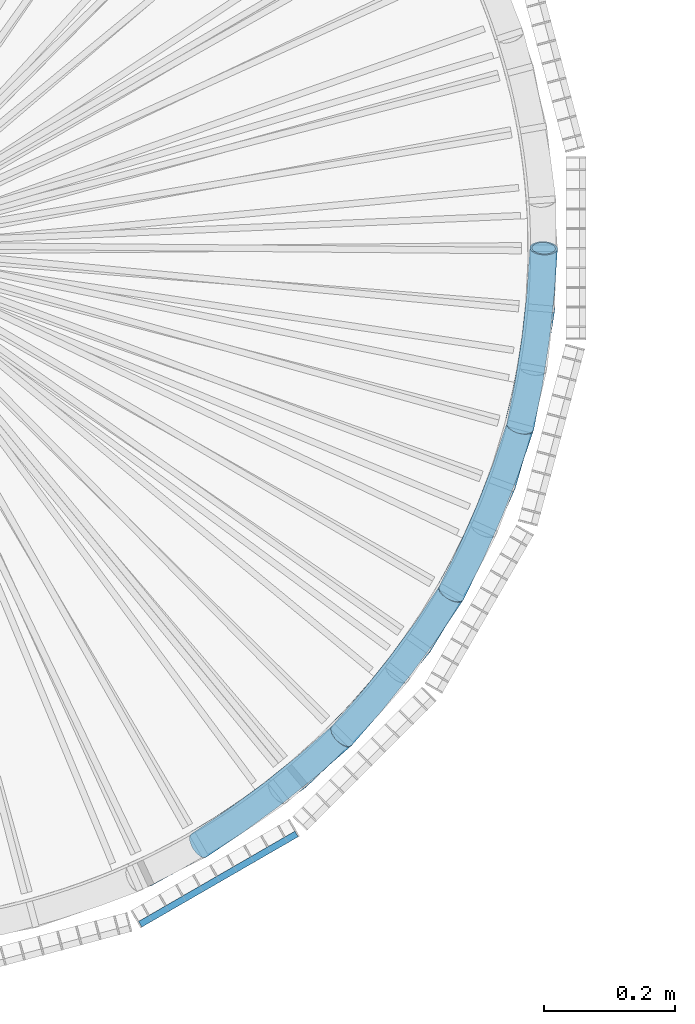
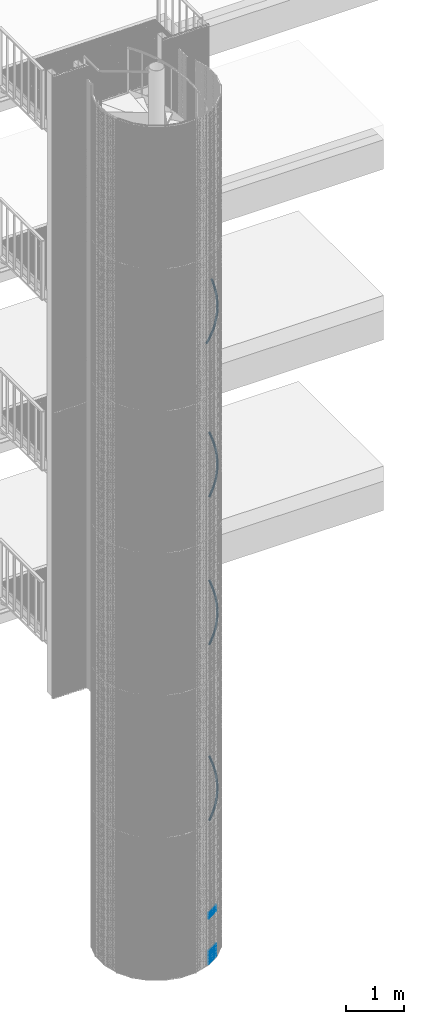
# One storey, part 270 of 1183: 16 members, 15 beams, 17 elements without a shape of their own.
"""IFC2X3 building model written with IfcOpenShell, lengths in millimetres."""

from ifc_helpers import new_model, entity, si_unit, frame, origin_with_axes, origin_2d_with_axis, place, context, subcontext, project, spatial, rectangle, extrude, material, type_object, element, aggregate, save


model = new_model("IFC2X3")

# Units and contexts
model_context = context("Model", 3, precision=1e-05, world=origin_with_axes())
body_context = subcontext(model_context, "Body", "Model", "MODEL_VIEW")
ifc_project = project(units=[si_unit("LENGTHUNIT", "METRE", prefix="MILLI"), si_unit("AREAUNIT", "SQUARE_METRE"), si_unit("VOLUMEUNIT", "CUBIC_METRE"), si_unit("MASSUNIT", "GRAM", prefix="KILO"), si_unit("TIMEUNIT", "SECOND"), si_unit("PLANEANGLEUNIT", "RADIAN"), si_unit("SOLIDANGLEUNIT", "STERADIAN"), si_unit("THERMODYNAMICTEMPERATUREUNIT", "DEGREE_CELSIUS"), si_unit("LUMINOUSINTENSITYUNIT", "LUMEN")], contexts=[model_context])

# Site, building, storey
site_placement = place(None, origin_with_axes())
site = spatial("IfcSite", under=ifc_project, at=site_placement, Name="Undefined", CompositionType="ELEMENT")
building_placement = place(site_placement, origin_with_axes())
building = spatial("IfcBuilding", under=site, at=building_placement, Name="Undefined", CompositionType="ELEMENT")
storey_placement = place(building_placement, origin_with_axes())
storey = spatial("IfcBuildingStorey", under=building, at=storey_placement, Name="Undefined", CompositionType="ELEMENT", Elevation=0.0)

# Assembly, beams
assembly_1_placement = place(storey_placement, origin_with_axes())
assembly_1 = element("IfcElementAssembly", 1, at=assembly_1_placement, inside=storey, Name="BORDURE", AssemblyPlace="NOTDEFINED", PredefinedType="NOTDEFINED")
ifc_material = material(Name="STEEL/S235JR")
beam_type = type_object("IfcBeamType", Name="PL2*10", PredefinedType="NOTDEFINED")
beam_1_placement = place(assembly_1_placement, frame((437.231955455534, -1033.29996828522, 299.999999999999), z_axis=(0.499999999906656, -0.866025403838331, 0.0), x_axis=(0.866025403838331, 0.499999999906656, 0.0)))
beam_1 = element("IfcBeam", 2, at=beam_1_placement, type_object=beam_type, material=ifc_material, Name="ENTRETOISE", context=body_context, shape_type="SweptSolid", body=[
    extrude(rectangle(XDim=2.0, YDim=10.0, at=origin_2d_with_axis()), frame((275.999999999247, 9.09494701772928e-13, 1.53210777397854e-14), z_axis=(-1.0, 0.0, 0.0), x_axis=(0.0, -1.0, 0.0)), (0.0, 0.0, 1.0), 276.0),
])
beam_2_placement = place(assembly_1_placement, frame((437.231955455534, -1033.29996828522, 269.999999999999), z_axis=(0.499999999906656, -0.866025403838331, 0.0), x_axis=(0.866025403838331, 0.499999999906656, 0.0)))
beam_2 = element("IfcBeam", 3, at=beam_2_placement, type_object=beam_type, material=ifc_material, Name="ENTRETOISE", context=body_context, shape_type="SweptSolid", body=[
    extrude(rectangle(XDim=2.0, YDim=10.0, at=origin_2d_with_axis()), frame((275.999999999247, 9.09494701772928e-13, 1.53210777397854e-14), z_axis=(-1.0, 0.0, 0.0), x_axis=(0.0, -1.0, 0.0)), (0.0, 0.0, 1.0), 276.0),
])
beam_3_placement = place(assembly_1_placement, frame((437.231955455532, -1033.29996828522, 989.999999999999), z_axis=(0.499999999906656, -0.866025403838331, 0.0), x_axis=(0.866025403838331, 0.499999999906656, 0.0)))
beam_3 = element("IfcBeam", 4, at=beam_3_placement, type_object=beam_type, material=ifc_material, Name="ENTRETOISE", context=body_context, shape_type="SweptSolid", body=[
    extrude(rectangle(XDim=2.0, YDim=10.0, at=origin_2d_with_axis()), frame((275.999999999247, 9.09494701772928e-13, 1.53210777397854e-14), z_axis=(-1.0, 0.0, 0.0), x_axis=(0.0, -1.0, 0.0)), (0.0, 0.0, 1.0), 276.0),
])
beam_4_placement = place(assembly_1_placement, frame((437.231955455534, -1033.29996828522, 239.999999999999), z_axis=(0.499999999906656, -0.866025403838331, 0.0), x_axis=(0.866025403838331, 0.499999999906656, 0.0)))
beam_4 = element("IfcBeam", 5, at=beam_4_placement, type_object=beam_type, material=ifc_material, Name="ENTRETOISE", context=body_context, shape_type="SweptSolid", body=[
    extrude(rectangle(XDim=2.0, YDim=10.0, at=origin_2d_with_axis()), frame((275.999999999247, 9.09494701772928e-13, 1.53210777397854e-14), z_axis=(-1.0, 0.0, 0.0), x_axis=(0.0, -1.0, 0.0)), (0.0, 0.0, 1.0), 276.0),
])
beam_5_placement = place(assembly_1_placement, frame((437.231955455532, -1033.29996828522, 1020.0), z_axis=(0.499999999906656, -0.866025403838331, 0.0), x_axis=(0.866025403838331, 0.499999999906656, 0.0)))
beam_5 = element("IfcBeam", 6, at=beam_5_placement, type_object=beam_type, material=ifc_material, Name="ENTRETOISE", context=body_context, shape_type="SweptSolid", body=[
    extrude(rectangle(XDim=2.0, YDim=10.0, at=origin_2d_with_axis()), frame((275.999999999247, 9.09494701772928e-13, 1.53210777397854e-14), z_axis=(-1.0, 0.0, 0.0), x_axis=(0.0, -1.0, 0.0)), (0.0, 0.0, 1.0), 276.0),
])
beam_6_placement = place(assembly_1_placement, frame((437.231955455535, -1033.29996828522, 209.999999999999), z_axis=(0.499999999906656, -0.866025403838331, 0.0), x_axis=(0.866025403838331, 0.499999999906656, 0.0)))
beam_6 = element("IfcBeam", 7, at=beam_6_placement, type_object=beam_type, material=ifc_material, Name="ENTRETOISE", context=body_context, shape_type="SweptSolid", body=[
    extrude(rectangle(XDim=2.0, YDim=10.0, at=origin_2d_with_axis()), frame((275.999999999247, 9.09494701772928e-13, 1.53210777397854e-14), z_axis=(-1.0, 0.0, 0.0), x_axis=(0.0, -1.0, 0.0)), (0.0, 0.0, 1.0), 276.0),
])
beam_7_placement = place(assembly_1_placement, frame((437.231955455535, -1033.29996828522, 179.999999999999), z_axis=(0.499999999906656, -0.866025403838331, 0.0), x_axis=(0.866025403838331, 0.499999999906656, 0.0)))
beam_7 = element("IfcBeam", 8, at=beam_7_placement, type_object=beam_type, material=ifc_material, Name="ENTRETOISE", context=body_context, shape_type="SweptSolid", body=[
    extrude(rectangle(XDim=2.0, YDim=10.0, at=origin_2d_with_axis()), frame((275.999999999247, 9.09494701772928e-13, 1.53210777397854e-14), z_axis=(-1.0, 0.0, 0.0), x_axis=(0.0, -1.0, 0.0)), (0.0, 0.0, 1.0), 276.0),
])
beam_8_placement = place(assembly_1_placement, frame((437.231955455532, -1033.29996828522, 1050.0), z_axis=(0.499999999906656, -0.866025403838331, 0.0), x_axis=(0.866025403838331, 0.499999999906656, 0.0)))
beam_8 = element("IfcBeam", 9, at=beam_8_placement, type_object=beam_type, material=ifc_material, Name="ENTRETOISE", context=body_context, shape_type="SweptSolid", body=[
    extrude(rectangle(XDim=2.0, YDim=10.0, at=origin_2d_with_axis()), frame((275.999999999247, 9.09494701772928e-13, 1.53210777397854e-14), z_axis=(-1.0, 0.0, 0.0), x_axis=(0.0, -1.0, 0.0)), (0.0, 0.0, 1.0), 276.0),
])
beam_9_placement = place(assembly_1_placement, frame((437.231955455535, -1033.29996828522, 149.999999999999), z_axis=(0.499999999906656, -0.866025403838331, 0.0), x_axis=(0.866025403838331, 0.499999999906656, 0.0)))
beam_9 = element("IfcBeam", 10, at=beam_9_placement, type_object=beam_type, material=ifc_material, Name="ENTRETOISE", context=body_context, shape_type="SweptSolid", body=[
    extrude(rectangle(XDim=2.0, YDim=10.0, at=origin_2d_with_axis()), frame((275.999999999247, 9.09494701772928e-13, 1.53210777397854e-14), z_axis=(-1.0, 0.0, 0.0), x_axis=(0.0, -1.0, 0.0)), (0.0, 0.0, 1.0), 276.0),
])
beam_10_placement = place(assembly_1_placement, frame((437.231955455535, -1033.29996828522, 119.999999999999), z_axis=(0.499999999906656, -0.866025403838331, 0.0), x_axis=(0.866025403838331, 0.499999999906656, 0.0)))
beam_10 = element("IfcBeam", 11, at=beam_10_placement, type_object=beam_type, material=ifc_material, Name="ENTRETOISE", context=body_context, shape_type="SweptSolid", body=[
    extrude(rectangle(XDim=2.0, YDim=10.0, at=origin_2d_with_axis()), frame((275.999999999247, 9.09494701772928e-13, 1.53210777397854e-14), z_axis=(-1.0, 0.0, 0.0), x_axis=(0.0, -1.0, 0.0)), (0.0, 0.0, 1.0), 276.0),
])
beam_11_placement = place(assembly_1_placement, frame((437.231955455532, -1033.29996828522, 1080.0), z_axis=(0.499999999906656, -0.866025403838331, 0.0), x_axis=(0.866025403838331, 0.499999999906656, 0.0)))
beam_11 = element("IfcBeam", 12, at=beam_11_placement, type_object=beam_type, material=ifc_material, Name="ENTRETOISE", context=body_context, shape_type="SweptSolid", body=[
    extrude(rectangle(XDim=2.0, YDim=10.0, at=origin_2d_with_axis()), frame((275.999999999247, 9.09494701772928e-13, 1.53210777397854e-14), z_axis=(-1.0, 0.0, 0.0), x_axis=(0.0, -1.0, 0.0)), (0.0, 0.0, 1.0), 276.0),
])
beam_12_placement = place(assembly_1_placement, frame((437.231955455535, -1033.29996828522, 89.9999999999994), z_axis=(0.499999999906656, -0.866025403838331, 0.0), x_axis=(0.866025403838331, 0.499999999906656, 0.0)))
beam_12 = element("IfcBeam", 13, at=beam_12_placement, type_object=beam_type, material=ifc_material, Name="ENTRETOISE", context=body_context, shape_type="SweptSolid", body=[
    extrude(rectangle(XDim=2.0, YDim=10.0, at=origin_2d_with_axis()), frame((275.999999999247, 9.09494701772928e-13, 1.53210777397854e-14), z_axis=(-1.0, 0.0, 0.0), x_axis=(0.0, -1.0, 0.0)), (0.0, 0.0, 1.0), 276.0),
])
beam_13_placement = place(assembly_1_placement, frame((437.231955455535, -1033.29996828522, 59.9999999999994), z_axis=(0.499999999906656, -0.866025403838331, 0.0), x_axis=(0.866025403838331, 0.499999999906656, 0.0)))
beam_13 = element("IfcBeam", 14, at=beam_13_placement, type_object=beam_type, material=ifc_material, Name="ENTRETOISE", context=body_context, shape_type="SweptSolid", body=[
    extrude(rectangle(XDim=2.0, YDim=10.0, at=origin_2d_with_axis()), frame((275.999999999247, 9.09494701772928e-13, 1.53210777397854e-14), z_axis=(-1.0, 0.0, 0.0), x_axis=(0.0, -1.0, 0.0)), (0.0, 0.0, 1.0), 276.0),
])
beam_14_placement = place(assembly_1_placement, frame((437.231955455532, -1033.29996828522, 1110.0), z_axis=(0.499999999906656, -0.866025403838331, 0.0), x_axis=(0.866025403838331, 0.499999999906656, 0.0)))
beam_14 = element("IfcBeam", 15, at=beam_14_placement, type_object=beam_type, material=ifc_material, Name="ENTRETOISE", context=body_context, shape_type="SweptSolid", body=[
    extrude(rectangle(XDim=2.0, YDim=10.0, at=origin_2d_with_axis()), frame((275.999999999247, 9.09494701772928e-13, 1.53210777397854e-14), z_axis=(-1.0, 0.0, 0.0), x_axis=(0.0, -1.0, 0.0)), (0.0, 0.0, 1.0), 276.0),
])
beam_15_placement = place(assembly_1_placement, frame((437.231955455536, -1033.29996828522, 29.9999999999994), z_axis=(0.499999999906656, -0.866025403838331, 0.0), x_axis=(0.866025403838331, 0.499999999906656, 0.0)))
beam_15 = element("IfcBeam", 16, at=beam_15_placement, type_object=beam_type, material=ifc_material, Name="ENTRETOISE", context=body_context, shape_type="SweptSolid", body=[
    extrude(rectangle(XDim=2.0, YDim=10.0, at=origin_2d_with_axis()), frame((275.999999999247, 9.09494701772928e-13, 1.53210777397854e-14), z_axis=(-1.0, 0.0, 0.0), x_axis=(0.0, -1.0, 0.0)), (0.0, 0.0, 1.0), 276.0),
])
aggregate(assembly_1, [beam_1, beam_2, beam_3, beam_4, beam_5, beam_6, beam_7, beam_8, beam_9, beam_10, beam_11, beam_12, beam_13, beam_14, beam_15])

# Assembly, member
assembly_2_placement = place(storey_placement, origin_with_axes())
assembly_2 = element("IfcElementAssembly", 17, at=assembly_2_placement, inside=storey, Name="MONTANT", AssemblyPlace="NOTDEFINED", PredefinedType="NOTDEFINED")
member_type = type_object("IfcMemberType", Name="TUBE-42.4*3.2", PredefinedType="NOTDEFINED")
member_1_placement = place(assembly_2_placement, frame((1018.08582091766, -272.795273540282, 7126.27999999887), z_axis=(0.991444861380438, -0.130526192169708, 6.66032065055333e-11), x_axis=(0.113807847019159, 0.864456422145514, 0.489655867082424)))
member_1 = element("IfcMember", 18, at=member_1_placement, type_object=member_type, material=ifc_material, Name="MAIN_COURANTE", context=body_context, shape_type="SweptSolid", body=[
    entity("IfcRevolvedAreaSolid", entity("IfcCircleHollowProfileDef", "AREA", None, entity("IfcAxis2Placement2D", entity("IfcCartesianPoint", [0.0, 0.0]), entity("IfcDirection", [1.0, 0.0])), 21.200000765, 3.200000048), entity("IfcAxis2Placement3D", entity("IfcCartesianPoint", [315.568566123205, -9.09494701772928e-13, -1.31255851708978e-15]), entity("IfcDirection", [-0.997194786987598, -4.44488503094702e-18, 0.0748502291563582]), entity("IfcDirection", [0.0, -1.0, 0.0])), entity("IfcAxis1Placement", entity("IfcCartesianPoint", [0.0, -2108.0, 0.0]), entity("IfcDirection", [1.0, 0.0, 0.0])), 0.149840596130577),
])
aggregate(assembly_2, [member_1])

assembly_3_placement = place(storey_placement, origin_with_axes())
assembly_3 = element("IfcElementAssembly", 19, at=assembly_3_placement, inside=storey, Name="MONTANT", AssemblyPlace="NOTDEFINED", PredefinedType="NOTDEFINED")
member_2_placement = place(assembly_3_placement, frame((912.790775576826, -526.999999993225, 6971.75999999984), z_axis=(0.92387953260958, -0.382683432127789, 1.50206687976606e-10), x_axis=(0.333667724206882, 0.805545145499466, 0.489655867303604)))
member_2 = element("IfcMember", 20, at=member_2_placement, type_object=member_type, material=ifc_material, Name="MAIN_COURANTE", context=body_context, shape_type="SweptSolid", body=[
    entity("IfcRevolvedAreaSolid", entity("IfcCircleHollowProfileDef", "AREA", None, entity("IfcAxis2Placement2D", entity("IfcCartesianPoint", [0.0, 0.0]), entity("IfcDirection", [1.0, 0.0])), 21.200000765, 3.200000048), entity("IfcAxis2Placement3D", entity("IfcCartesianPoint", [315.568566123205, -9.09494701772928e-13, -1.31255851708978e-15]), entity("IfcDirection", [-0.997194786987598, -4.44488503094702e-18, 0.0748502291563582]), entity("IfcDirection", [0.0, -1.0, 0.0])), entity("IfcAxis1Placement", entity("IfcCartesianPoint", [0.0, -2108.0, 0.0]), entity("IfcDirection", [1.0, 0.0, 0.0])), 0.14984059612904),
])
aggregate(assembly_3, [member_2])

assembly_4_placement = place(storey_placement, origin_with_axes())
assembly_4 = element("IfcElementAssembly", 21, at=assembly_4_placement, inside=storey, Name="MONTANT", AssemblyPlace="NOTDEFINED", PredefinedType="NOTDEFINED")
member_3_placement = place(assembly_4_placement, frame((745.290547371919, -745.290547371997, 6817.2400000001), z_axis=(0.793353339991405, -0.608761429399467, 1.80915776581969e-10), x_axis=(0.530788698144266, 0.691737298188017, 0.48965586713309)))
member_3 = element("IfcMember", 22, at=member_3_placement, type_object=member_type, material=ifc_material, Name="MAIN_COURANTE", context=body_context, shape_type="SweptSolid", body=[
    entity("IfcRevolvedAreaSolid", entity("IfcCircleHollowProfileDef", "AREA", None, entity("IfcAxis2Placement2D", entity("IfcCartesianPoint", [0.0, 0.0]), entity("IfcDirection", [1.0, 0.0])), 21.200000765, 3.200000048), entity("IfcAxis2Placement3D", entity("IfcCartesianPoint", [315.568566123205, -9.09494701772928e-13, -1.31255851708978e-15]), entity("IfcDirection", [-0.997194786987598, -4.44488503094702e-18, 0.0748502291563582]), entity("IfcDirection", [0.0, -1.0, 0.0])), entity("IfcAxis1Placement", entity("IfcCartesianPoint", [0.0, -2108.0, 0.0]), entity("IfcDirection", [1.0, 0.0, 0.0])), 0.149840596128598),
])
aggregate(assembly_4, [member_3])

assembly_5_placement = place(storey_placement, origin_with_axes())
assembly_5 = element("IfcElementAssembly", 23, at=assembly_5_placement, inside=storey, Name="MONTANT", AssemblyPlace="NOTDEFINED", PredefinedType="NOTDEFINED")
member_4_placement = place(assembly_5_placement, frame((527.000000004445, -912.790775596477, 6662.71999999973), z_axis=(0.608761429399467, -0.793353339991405, -1.80915776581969e-10), x_axis=(0.691737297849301, 0.530788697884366, 0.489655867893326)))
member_4 = element("IfcMember", 24, at=member_4_placement, type_object=member_type, material=ifc_material, Name="MAIN_COURANTE", context=body_context, shape_type="SweptSolid", body=[
    entity("IfcRevolvedAreaSolid", entity("IfcCircleHollowProfileDef", "AREA", None, entity("IfcAxis2Placement2D", entity("IfcCartesianPoint", [0.0, 0.0]), entity("IfcDirection", [1.0, 0.0])), 21.200000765, 3.200000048), entity("IfcAxis2Placement3D", entity("IfcCartesianPoint", [315.568566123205, -9.09494701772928e-13, -1.31255851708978e-15]), entity("IfcDirection", [-0.997194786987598, -4.44488503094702e-18, 0.0748502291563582]), entity("IfcDirection", [0.0, -1.0, 0.0])), entity("IfcAxis1Placement", entity("IfcCartesianPoint", [0.0, -2108.0, 0.0]), entity("IfcDirection", [1.0, 0.0, 0.0])), 0.149840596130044),
])
aggregate(assembly_5, [member_4])

assembly_6_placement = place(storey_placement, origin_with_axes())
assembly_6 = element("IfcElementAssembly", 25, at=assembly_6_placement, inside=storey, Name="MONTANT", AssemblyPlace="NOTDEFINED", PredefinedType="NOTDEFINED")
member_5_placement = place(assembly_6_placement, frame((1018.08582091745, -272.795273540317, 3417.79999999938), z_axis=(0.991444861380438, -0.130526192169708, 6.66032065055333e-11), x_axis=(0.113807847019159, 0.864456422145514, 0.489655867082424)))
member_5 = element("IfcMember", 26, at=member_5_placement, type_object=member_type, material=ifc_material, Name="MAIN_COURANTE", context=body_context, shape_type="SweptSolid", body=[
    entity("IfcRevolvedAreaSolid", entity("IfcCircleHollowProfileDef", "AREA", None, entity("IfcAxis2Placement2D", entity("IfcCartesianPoint", [0.0, 0.0]), entity("IfcDirection", [1.0, 0.0])), 21.200000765, 3.200000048), entity("IfcAxis2Placement3D", entity("IfcCartesianPoint", [315.568566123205, -9.09494701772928e-13, -1.31255851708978e-15]), entity("IfcDirection", [-0.997194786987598, -4.44488503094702e-18, 0.0748502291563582]), entity("IfcDirection", [0.0, -1.0, 0.0])), entity("IfcAxis1Placement", entity("IfcCartesianPoint", [0.0, -2108.0, 0.0]), entity("IfcDirection", [1.0, 0.0, 0.0])), 0.149840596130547),
])
aggregate(assembly_6, [member_5])

assembly_7_placement = place(storey_placement, origin_with_axes())
assembly_7 = element("IfcElementAssembly", 27, at=assembly_7_placement, inside=storey, Name="MONTANT", AssemblyPlace="NOTDEFINED", PredefinedType="NOTDEFINED")
member_6_placement = place(assembly_7_placement, frame((912.790775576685, -526.999999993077, 3263.27999999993), z_axis=(0.92387953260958, -0.382683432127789, 1.50206687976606e-10), x_axis=(0.333667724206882, 0.805545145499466, 0.489655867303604)))
member_6 = element("IfcMember", 28, at=member_6_placement, type_object=member_type, material=ifc_material, Name="MAIN_COURANTE", context=body_context, shape_type="SweptSolid", body=[
    entity("IfcRevolvedAreaSolid", entity("IfcCircleHollowProfileDef", "AREA", None, entity("IfcAxis2Placement2D", entity("IfcCartesianPoint", [0.0, 0.0]), entity("IfcDirection", [1.0, 0.0])), 21.200000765, 3.200000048), entity("IfcAxis2Placement3D", entity("IfcCartesianPoint", [315.568566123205, -9.09494701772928e-13, -1.31255851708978e-15]), entity("IfcDirection", [-0.997194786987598, -4.44488503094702e-18, 0.0748502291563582]), entity("IfcDirection", [0.0, -1.0, 0.0])), entity("IfcAxis1Placement", entity("IfcCartesianPoint", [0.0, -2108.0, 0.0]), entity("IfcDirection", [1.0, 0.0, 0.0])), 0.149840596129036),
])
aggregate(assembly_7, [member_6])

assembly_8_placement = place(storey_placement, origin_with_axes())
assembly_8 = element("IfcElementAssembly", 29, at=assembly_8_placement, inside=storey, Name="MONTANT", AssemblyPlace="NOTDEFINED", PredefinedType="NOTDEFINED")
member_7_placement = place(assembly_8_placement, frame((745.290547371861, -745.290547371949, 3108.76000000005), z_axis=(0.793353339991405, -0.608761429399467, 1.80915776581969e-10), x_axis=(0.530788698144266, 0.691737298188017, 0.48965586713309)))
member_7 = element("IfcMember", 30, at=member_7_placement, type_object=member_type, material=ifc_material, Name="MAIN_COURANTE", context=body_context, shape_type="SweptSolid", body=[
    entity("IfcRevolvedAreaSolid", entity("IfcCircleHollowProfileDef", "AREA", None, entity("IfcAxis2Placement2D", entity("IfcCartesianPoint", [0.0, 0.0]), entity("IfcDirection", [1.0, 0.0])), 21.200000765, 3.200000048), entity("IfcAxis2Placement3D", entity("IfcCartesianPoint", [315.568566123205, -9.09494701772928e-13, -1.31255851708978e-15]), entity("IfcDirection", [-0.997194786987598, -4.44488503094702e-18, 0.0748502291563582]), entity("IfcDirection", [0.0, -1.0, 0.0])), entity("IfcAxis1Placement", entity("IfcCartesianPoint", [0.0, -2108.0, 0.0]), entity("IfcDirection", [1.0, 0.0, 0.0])), 0.149840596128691),
])
aggregate(assembly_8, [member_7])

assembly_9_placement = place(storey_placement, origin_with_axes())
assembly_9 = element("IfcElementAssembly", 31, at=assembly_9_placement, inside=storey, Name="MONTANT", AssemblyPlace="NOTDEFINED", PredefinedType="NOTDEFINED")
member_8_placement = place(assembly_9_placement, frame((527.000000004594, -912.790775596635, 2954.23999999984), z_axis=(0.608761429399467, -0.793353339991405, -1.80915776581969e-10), x_axis=(0.691737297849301, 0.530788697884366, 0.489655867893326)))
member_8 = element("IfcMember", 32, at=member_8_placement, type_object=member_type, material=ifc_material, Name="MAIN_COURANTE", context=body_context, shape_type="SweptSolid", body=[
    entity("IfcRevolvedAreaSolid", entity("IfcCircleHollowProfileDef", "AREA", None, entity("IfcAxis2Placement2D", entity("IfcCartesianPoint", [0.0, 0.0]), entity("IfcDirection", [1.0, 0.0])), 21.200000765, 3.200000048), entity("IfcAxis2Placement3D", entity("IfcCartesianPoint", [315.568566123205, -9.09494701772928e-13, -1.31255851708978e-15]), entity("IfcDirection", [-0.997194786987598, -4.44488503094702e-18, 0.0748502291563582]), entity("IfcDirection", [0.0, -1.0, 0.0])), entity("IfcAxis1Placement", entity("IfcCartesianPoint", [0.0, -2108.0, 0.0]), entity("IfcDirection", [1.0, 0.0, 0.0])), 0.149840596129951),
])
aggregate(assembly_9, [member_8])

assembly_10_placement = place(storey_placement, origin_with_axes())
assembly_10 = element("IfcElementAssembly", 33, at=assembly_10_placement, inside=storey, Name="MONTANT", AssemblyPlace="NOTDEFINED", PredefinedType="NOTDEFINED")
member_9_placement = place(assembly_10_placement, frame((1018.08582091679, -272.795273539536, 10250.8400000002), z_axis=(0.991444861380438, -0.130526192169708, 6.66032065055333e-11), x_axis=(0.113454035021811, 0.861768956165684, 0.494451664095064)))
member_9 = element("IfcMember", 34, at=member_9_placement, type_object=member_type, material=ifc_material, Name="MAIN_COURANTE", context=body_context, shape_type="SweptSolid", body=[
    entity("IfcRevolvedAreaSolid", entity("IfcCircleHollowProfileDef", "AREA", None, entity("IfcAxis2Placement2D", entity("IfcCartesianPoint", [0.0, 0.0]), entity("IfcDirection", [1.0, 0.0])), 21.200000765, 3.200000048), entity("IfcAxis2Placement3D", entity("IfcCartesianPoint", [316.552681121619, 9.09494701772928e-13, -1.82569453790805e-12]), entity("IfcDirection", [-0.997177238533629, 2.1263748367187e-18, 0.0750836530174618]), entity("IfcDirection", [0.0, -1.0, 0.0])), entity("IfcAxis1Placement", entity("IfcCartesianPoint", [0.0, -2108.0, 0.0]), entity("IfcDirection", [1.0, 0.0, 0.0])), 0.150308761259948),
])
aggregate(assembly_10, [member_9])

assembly_11_placement = place(storey_placement, origin_with_axes())
assembly_11 = element("IfcElementAssembly", 35, at=assembly_11_placement, inside=storey, Name="MONTANT", AssemblyPlace="NOTDEFINED", PredefinedType="NOTDEFINED")
member_10_placement = place(assembly_11_placement, frame((912.790775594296, -527.000000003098, 10094.3199999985), z_axis=(0.92387953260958, -0.382683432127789, 1.50206687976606e-10), x_axis=(0.332630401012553, 0.803040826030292, 0.494451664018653)))
member_10 = element("IfcMember", 36, at=member_10_placement, type_object=member_type, material=ifc_material, Name="MAIN_COURANTE", context=body_context, shape_type="SweptSolid", body=[
    entity("IfcRevolvedAreaSolid", entity("IfcCircleHollowProfileDef", "AREA", None, entity("IfcAxis2Placement2D", entity("IfcCartesianPoint", [0.0, 0.0]), entity("IfcDirection", [1.0, 0.0])), 21.200000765, 3.200000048), entity("IfcAxis2Placement3D", entity("IfcCartesianPoint", [316.552681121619, 9.09494701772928e-13, -1.82569453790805e-12]), entity("IfcDirection", [-0.997177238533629, 2.1263748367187e-18, 0.0750836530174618]), entity("IfcDirection", [0.0, -1.0, 0.0])), entity("IfcAxis1Placement", entity("IfcCartesianPoint", [0.0, -2108.0, 0.0]), entity("IfcDirection", [1.0, 0.0, 0.0])), 0.150308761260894),
])
aggregate(assembly_11, [member_10])

assembly_12_placement = place(storey_placement, origin_with_axes())
assembly_12 = element("IfcElementAssembly", 37, at=assembly_12_placement, inside=storey, Name="MONTANT", AssemblyPlace="NOTDEFINED", PredefinedType="NOTDEFINED")
member_11_placement = place(assembly_12_placement, frame((745.290547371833, -745.290547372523, 9937.79999999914), z_axis=(0.793353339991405, -0.608761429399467, 1.80915776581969e-10), x_axis=(0.529138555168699, 0.689586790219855, 0.49445166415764)))
member_11 = element("IfcMember", 38, at=member_11_placement, type_object=member_type, material=ifc_material, Name="MAIN_COURANTE", context=body_context, shape_type="SweptSolid", body=[
    entity("IfcRevolvedAreaSolid", entity("IfcCircleHollowProfileDef", "AREA", None, entity("IfcAxis2Placement2D", entity("IfcCartesianPoint", [0.0, 0.0]), entity("IfcDirection", [1.0, 0.0])), 21.200000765, 3.200000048), entity("IfcAxis2Placement3D", entity("IfcCartesianPoint", [316.552681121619, 9.09494701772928e-13, -1.82569453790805e-12]), entity("IfcDirection", [-0.997177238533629, 2.1263748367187e-18, 0.0750836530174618]), entity("IfcDirection", [0.0, -1.0, 0.0])), entity("IfcAxis1Placement", entity("IfcCartesianPoint", [0.0, -2108.0, 0.0]), entity("IfcDirection", [1.0, 0.0, 0.0])), 0.150308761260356),
])
aggregate(assembly_12, [member_11])

assembly_13_placement = place(storey_placement, origin_with_axes())
assembly_13 = element("IfcElementAssembly", 39, at=assembly_13_placement, inside=storey, Name="MONTANT", AssemblyPlace="NOTDEFINED", PredefinedType="NOTDEFINED")
member_12_placement = place(assembly_13_placement, frame((527.000000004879, -912.790775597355, 9781.28000000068), z_axis=(0.608761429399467, -0.793353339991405, -1.80915776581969e-10), x_axis=(0.689586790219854, 0.529138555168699, 0.494451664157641)))
member_12 = element("IfcMember", 40, at=member_12_placement, type_object=member_type, material=ifc_material, Name="MAIN_COURANTE", context=body_context, shape_type="SweptSolid", body=[
    entity("IfcRevolvedAreaSolid", entity("IfcCircleHollowProfileDef", "AREA", None, entity("IfcAxis2Placement2D", entity("IfcCartesianPoint", [0.0, 0.0]), entity("IfcDirection", [1.0, 0.0])), 21.200000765, 3.200000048), entity("IfcAxis2Placement3D", entity("IfcCartesianPoint", [316.552681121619, 9.09494701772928e-13, -1.82569453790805e-12]), entity("IfcDirection", [-0.997177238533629, 2.1263748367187e-18, 0.0750836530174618]), entity("IfcDirection", [0.0, -1.0, 0.0])), entity("IfcAxis1Placement", entity("IfcCartesianPoint", [0.0, -2108.0, 0.0]), entity("IfcDirection", [1.0, 0.0, 0.0])), 0.150308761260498),
])
aggregate(assembly_13, [member_12])

assembly_14_placement = place(storey_placement, origin_with_axes())
assembly_14 = element("IfcElementAssembly", 41, at=assembly_14_placement, inside=storey, Name="MONTANT", AssemblyPlace="NOTDEFINED", PredefinedType="NOTDEFINED")
member_13_placement = place(assembly_14_placement, frame((990.436022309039, -360.489231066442, 13537.8000000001), z_axis=(0.97629600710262, -0.216439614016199, 3.63797880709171e-12), x_axis=(0.188130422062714, 0.848601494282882, 0.494451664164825)))
member_13 = element("IfcMember", 42, at=member_13_placement, type_object=member_type, material=ifc_material, Name="MAIN_COURANTE", context=body_context, shape_type="SweptSolid", body=[
    entity("IfcRevolvedAreaSolid", entity("IfcCircleHollowProfileDef", "AREA", None, entity("IfcAxis2Placement2D", entity("IfcCartesianPoint", [0.0, 0.0]), entity("IfcDirection", [1.0, 0.0])), 21.200000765, 3.200000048), entity("IfcAxis2Placement3D", entity("IfcCartesianPoint", [316.552681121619, 9.09494701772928e-13, -1.82569453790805e-12]), entity("IfcDirection", [-0.997177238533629, 2.1263748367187e-18, 0.0750836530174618]), entity("IfcDirection", [0.0, -1.0, 0.0])), entity("IfcAxis1Placement", entity("IfcCartesianPoint", [0.0, -2108.0, 0.0]), entity("IfcDirection", [1.0, 0.0, 0.0])), 0.150308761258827),
])
aggregate(assembly_14, [member_13])

assembly_15_placement = place(storey_placement, origin_with_axes())
assembly_15 = element("IfcElementAssembly", 43, at=assembly_15_placement, inside=storey, Name="MONTANT", AssemblyPlace="NOTDEFINED", PredefinedType="NOTDEFINED")
member_14_placement = place(assembly_15_placement, frame((863.386254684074, -604.549563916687, 13381.2799999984), z_axis=(0.887010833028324, -0.461748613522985, -2.56448402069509e-10), x_axis=(0.40135426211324, 0.770994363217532, 0.494451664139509)))
member_14 = element("IfcMember", 44, at=member_14_placement, type_object=member_type, material=ifc_material, Name="MAIN_COURANTE", context=body_context, shape_type="SweptSolid", body=[
    entity("IfcRevolvedAreaSolid", entity("IfcCircleHollowProfileDef", "AREA", None, entity("IfcAxis2Placement2D", entity("IfcCartesianPoint", [0.0, 0.0]), entity("IfcDirection", [1.0, 0.0])), 21.200000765, 3.200000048), entity("IfcAxis2Placement3D", entity("IfcCartesianPoint", [316.552681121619, 9.09494701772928e-13, -1.82569453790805e-12]), entity("IfcDirection", [-0.997177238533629, 2.1263748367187e-18, 0.0750836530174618]), entity("IfcDirection", [0.0, -1.0, 0.0])), entity("IfcAxis1Placement", entity("IfcCartesianPoint", [0.0, -2108.0, 0.0]), entity("IfcDirection", [1.0, 0.0, 0.0])), 0.150308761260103),
])
aggregate(assembly_15, [member_14])

assembly_16_placement = place(storey_placement, origin_with_axes())
assembly_16 = element("IfcElementAssembly", 45, at=assembly_16_placement, inside=storey, Name="MONTANT", AssemblyPlace="NOTDEFINED", PredefinedType="NOTDEFINED")
member_15_placement = place(assembly_16_placement, frame((677.4981406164, -807.410843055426, 13224.7600000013), z_axis=(0.737277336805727, -0.675590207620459, 8.45193426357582e-11), x_axis=(0.587226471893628, 0.640845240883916, 0.494451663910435)))
member_15 = element("IfcMember", 46, at=member_15_placement, type_object=member_type, material=ifc_material, Name="MAIN_COURANTE", context=body_context, shape_type="SweptSolid", body=[
    entity("IfcRevolvedAreaSolid", entity("IfcCircleHollowProfileDef", "AREA", None, entity("IfcAxis2Placement2D", entity("IfcCartesianPoint", [0.0, 0.0]), entity("IfcDirection", [1.0, 0.0])), 21.200000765, 3.200000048), entity("IfcAxis2Placement3D", entity("IfcCartesianPoint", [316.552681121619, 9.09494701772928e-13, -1.82569453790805e-12]), entity("IfcDirection", [-0.997177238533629, 2.1263748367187e-18, 0.0750836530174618]), entity("IfcDirection", [0.0, -1.0, 0.0])), entity("IfcAxis1Placement", entity("IfcCartesianPoint", [0.0, -2108.0, 0.0]), entity("IfcDirection", [1.0, 0.0, 0.0])), 0.15030876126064),
])
aggregate(assembly_16, [member_15])

assembly_17_placement = place(storey_placement, origin_with_axes())
assembly_17 = element("IfcElementAssembly", 47, at=assembly_17_placement, inside=storey, Name="MONTANT", AssemblyPlace="NOTDEFINED", PredefinedType="NOTDEFINED")
member_16_placement = place(assembly_17_placement, frame((445.439647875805, -955.248407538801, 13068.2400000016), z_axis=(0.537299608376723, -0.843391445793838, 2.43751856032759e-10), x_axis=(0.733080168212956, 0.467023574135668, 0.494451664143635)))
member_16 = element("IfcMember", 48, at=member_16_placement, type_object=member_type, material=ifc_material, Name="MAIN_COURANTE", context=body_context, shape_type="SweptSolid", body=[
    entity("IfcRevolvedAreaSolid", entity("IfcCircleHollowProfileDef", "AREA", None, entity("IfcAxis2Placement2D", entity("IfcCartesianPoint", [0.0, 0.0]), entity("IfcDirection", [1.0, 0.0])), 21.200000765, 3.200000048), entity("IfcAxis2Placement3D", entity("IfcCartesianPoint", [316.552681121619, 9.09494701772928e-13, -1.82569453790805e-12]), entity("IfcDirection", [-0.997177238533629, 2.1263748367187e-18, 0.0750836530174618]), entity("IfcDirection", [0.0, -1.0, 0.0])), entity("IfcAxis1Placement", entity("IfcCartesianPoint", [0.0, -2108.0, 0.0]), entity("IfcDirection", [1.0, 0.0, 0.0])), 0.150308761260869),
])
aggregate(assembly_17, [member_16])

save(model, "model.ifc")
